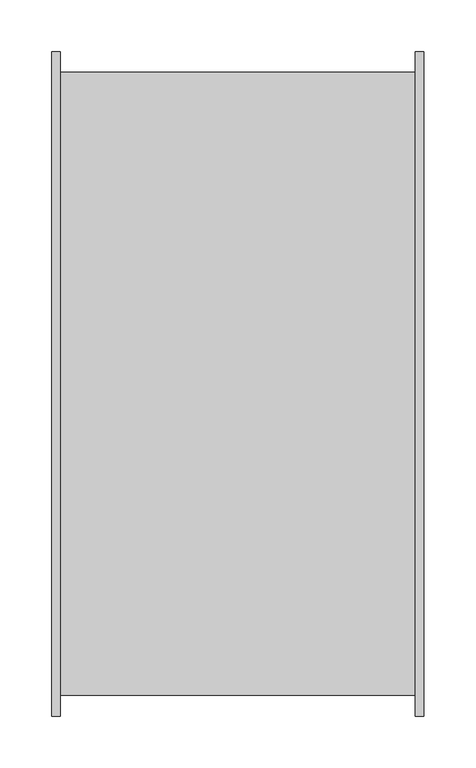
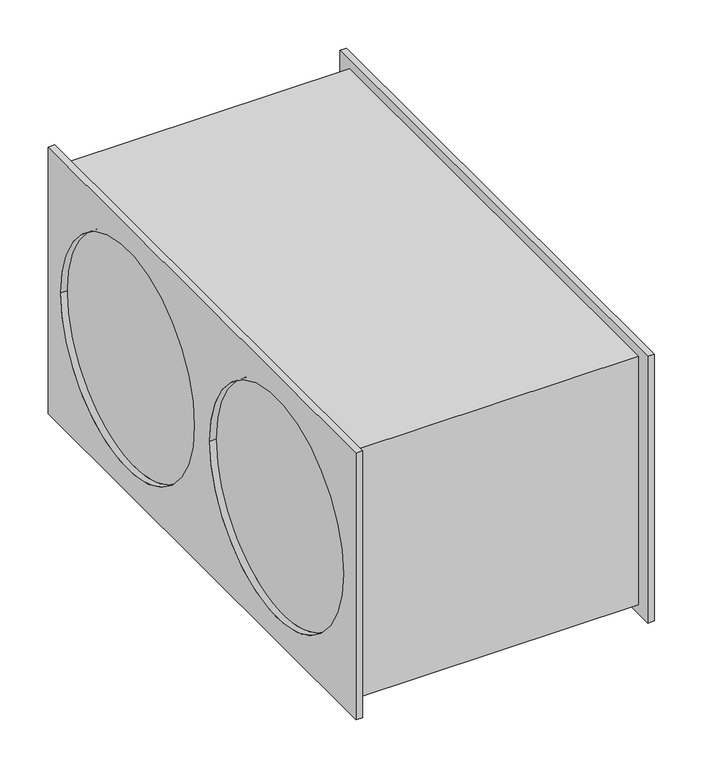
"""IFC4 building model written with IfcOpenShell, lengths in millimetres: unitary equipment geometry, VE-Wentylator-ParaForma-Harmann-JETTEC_REC-Nawiewny : 060/30/4900S."""

from ifc_helpers import new_model, si_unit, frame, origin, place, context, project, spatial, polyline, circle_curve, source, transform, mapped, element, save
from ifc_brep_helpers import plane_surface, revolved_surface, advanced_brep


def unitary_equipment_3133675a(model_context):
    return source(origin(), model_context, "Body", "AdvancedBrep", [
        advanced_brep(
        [(171.0, -319.8, -169.0), (171.0, -319.8, 169.0), (171.0, 319.8, 169.0), (171.0, 319.8, -169.0), (171.0, -300.0, 157.5), (171.0, -300.0, -157.5), (171.0, 300.0, -157.5), (171.0, 300.0, 157.5), (179.0, -319.8, -169.0), (179.0, 319.8, -169.0), (179.0, 319.8, 169.0), (179.0, -319.8, 169.0), (179.0, -293.55, 0.0), (179.0, -16.05, 0.0), (179.0, 16.05, 0.0), (179.0, 293.55, 0.0), (171.0, -16.05, 0.0), (171.0, -293.55, 0.0), (171.0, 293.55, 0.0), (171.0, 16.05, 0.0), (-171.0, -293.55, 0.0), (-171.0, -16.05, 0.0), (-171.0, 16.05, 0.0), (-171.0, 293.55, 0.0), (-171.0, -300.0, -157.5), (-171.0, -300.0, 157.5), (-171.0, 300.0, 157.5), (-171.0, 300.0, -157.5), (-179.0, -319.8, -169.0), (-179.0, -319.8, 169.0), (-179.0, 319.8, 169.0), (-179.0, 319.8, -169.0), (-179.0, -16.05, 0.0), (-179.0, -293.55, 0.0), (-179.0, 293.55, 0.0), (-179.0, 16.05, 0.0), (-171.0, -319.8, -169.0), (-171.0, 319.8, -169.0), (-171.0, 319.8, 169.0), (-171.0, -319.8, 169.0)],
        [
            (0, 1),
            (1, 2),
            (2, 3),
            (3, 0),
            (4, 5),
            (5, 6),
            (6, 7),
            (7, 4),
            (8, 9),
            (9, 10),
            (10, 11),
            (11, 8),
            (12, 13, circle_curve(frame((179.0, -154.8, 0.0), z_axis=(-1.0, 0.0, 0.0), x_axis=(0.0, 1.0, 0.0)), 138.75)),
            (13, 12, circle_curve(frame((179.0, -154.8, 0.0), z_axis=(-1.0, 0.0, 0.0), x_axis=(0.0, 1.0, 0.0)), 138.75)),
            (14, 15, circle_curve(frame((179.0, 154.8, 0.0), z_axis=(-1.0, 0.0, 0.0), x_axis=(0.0, 1.0, 0.0)), 138.75)),
            (15, 14, circle_curve(frame((179.0, 154.8, 0.0), z_axis=(-1.0, 0.0, 0.0), x_axis=(0.0, 1.0, 0.0)), 138.75)),
            (0, 8),
            (11, 1),
            (10, 2),
            (9, 3),
            (16, 13),
            (12, 17),
            (17, 16, circle_curve(frame((171.0, -154.8, 0.0), z_axis=(-1.0, 0.0, 0.0), x_axis=(0.0, 1.0, 0.0)), 138.75)),
            (16, 17, circle_curve(frame((171.0, -154.8, 0.0), z_axis=(-1.0, 0.0, 0.0), x_axis=(0.0, 1.0, 0.0)), 138.75)),
            (18, 15),
            (14, 19),
            (19, 18, circle_curve(frame((171.0, 154.8, 0.0), z_axis=(-1.0, 0.0, 0.0), x_axis=(0.0, 1.0, 0.0)), 138.75)),
            (18, 19, circle_curve(frame((171.0, 154.8, 0.0), z_axis=(-1.0, 0.0, 0.0), x_axis=(0.0, 1.0, 0.0)), 138.75)),
            (20, 21, circle_curve(frame((-171.0, -154.8, 0.0), z_axis=(-1.0, 0.0, 0.0), x_axis=(0.0, 1.0, 0.0)), 138.75)),
            (21, 20, circle_curve(frame((-171.0, -154.8, 0.0), z_axis=(-1.0, 0.0, 0.0), x_axis=(0.0, 1.0, 0.0)), 138.75)),
            (22, 23, circle_curve(frame((-171.0, 154.8, 0.0), z_axis=(-1.0, 0.0, 0.0), x_axis=(0.0, 1.0, 0.0)), 138.75)),
            (23, 22, circle_curve(frame((-171.0, 154.8, 0.0), z_axis=(-1.0, 0.0, 0.0), x_axis=(0.0, 1.0, 0.0)), 138.75)),
            (24, 5),
            (4, 25),
            (25, 24),
            (7, 26),
            (26, 25),
            (6, 27),
            (27, 26),
            (24, 27),
            (28, 29),
            (29, 30),
            (30, 31),
            (31, 28),
            (32, 33, circle_curve(frame((-179.0, -154.8, 0.0), z_axis=(1.0, 0.0, 0.0), x_axis=(0.0, 1.0, 0.0)), 138.75)),
            (33, 32, circle_curve(frame((-179.0, -154.8, 0.0), z_axis=(1.0, 0.0, 0.0), x_axis=(0.0, 1.0, 0.0)), 138.75)),
            (34, 35, circle_curve(frame((-179.0, 154.8, 0.0), z_axis=(1.0, 0.0, 0.0), x_axis=(0.0, 1.0, 0.0)), 138.75)),
            (35, 34, circle_curve(frame((-179.0, 154.8, 0.0), z_axis=(1.0, 0.0, 0.0), x_axis=(0.0, 1.0, 0.0)), 138.75)),
            (36, 37),
            (37, 38),
            (38, 39),
            (39, 36),
            (28, 36),
            (39, 29),
            (38, 30),
            (37, 31),
            (32, 21),
            (20, 33),
            (34, 23),
            (22, 35),
        ],
        [
            plane_surface(frame((171.0, 0.0, 0.0), z_axis=(-1.0, 0.0, 0.0), x_axis=(0.0, 0.0, 1.0))),
            plane_surface(frame((179.0, 0.0, 0.0), z_axis=(1.0, 0.0, 0.0), x_axis=(0.0, 0.0, 1.0))),
            plane_surface(frame((171.0, -319.8, -169.0), z_axis=(0.0, -1.0, 0.0), x_axis=(1.0, 0.0, 0.0))),
            plane_surface(frame((171.0, -319.8, 169.0), z_axis=(0.0, 0.0, 1.0), x_axis=(1.0, 0.0, 0.0))),
            plane_surface(frame((171.0, 319.8, 169.0), z_axis=(0.0, 1.0, 0.0), x_axis=(1.0, 0.0, 0.0))),
            plane_surface(frame((171.0, 319.8, -169.0), z_axis=(0.0, 0.0, -1.0), x_axis=(1.0, 0.0, 0.0))),
            revolved_surface(polyline([(171.0, -16.05000000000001, 0.0), (179.0, -16.05000000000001, 0.0)]), (171.0, -154.8, 0.0), (-1.0, 0.0, 0.0)),
            revolved_surface(polyline([(171.0, 293.55, 0.0), (179.0, 293.55, 0.0)]), (171.0, 154.8, 0.0), (-1.0, 0.0, 0.0)),
            plane_surface(frame((-171.0, 0.0, 0.0), z_axis=(-1.0, 0.0, 0.0), x_axis=(0.0, 0.0, 1.0))),
            plane_surface(frame((171.0, 0.0, 0.0), z_axis=(1.0, 0.0, 0.0), x_axis=(0.0, 0.0, 1.0))),
            plane_surface(frame((-171.0, -300.0, -157.5), z_axis=(0.0, -1.0, 0.0), x_axis=(1.0, 0.0, 0.0))),
            plane_surface(frame((-171.0, -300.0, 157.5), z_axis=(0.0, 0.0, 1.0), x_axis=(1.0, 0.0, 0.0))),
            plane_surface(frame((-171.0, 300.0, 157.5), z_axis=(0.0, 1.0, 0.0), x_axis=(1.0, 0.0, 0.0))),
            plane_surface(frame((-171.0, 300.0, -157.5), z_axis=(0.0, 0.0, -1.0), x_axis=(1.0, 0.0, 0.0))),
            plane_surface(frame((-179.0, 0.0, 0.0), z_axis=(-1.0, 0.0, 0.0), x_axis=(0.0, 0.0, 1.0))),
            plane_surface(frame((-171.0, 0.0, 0.0), z_axis=(1.0, 0.0, 0.0), x_axis=(0.0, 0.0, 1.0))),
            plane_surface(frame((-179.0, -319.8, -169.0), z_axis=(0.0, -1.0, 0.0), x_axis=(1.0, 0.0, 0.0))),
            plane_surface(frame((-179.0, -319.8, 169.0), z_axis=(0.0, 0.0, 1.0), x_axis=(1.0, 0.0, 0.0))),
            plane_surface(frame((-179.0, 319.8, 169.0), z_axis=(0.0, 1.0, 0.0), x_axis=(1.0, 0.0, 0.0))),
            plane_surface(frame((-179.0, 319.8, -169.0), z_axis=(0.0, 0.0, -1.0), x_axis=(1.0, 0.0, 0.0))),
            revolved_surface(polyline([(-179.0, -16.05000000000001, 0.0), (-171.0, -16.05000000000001, 0.0)]), (-179.0, -154.8, 0.0), (-1.0, 0.0, 0.0)),
            revolved_surface(polyline([(-179.0, 293.55, 0.0), (-171.0, 293.55, 0.0)]), (-179.0, 154.8, 0.0), (-1.0, 0.0, 0.0)),
        ],
        [
            (0, [[1, 2, 3, 4], [5, 6, 7, 8]]),
            (1, [[9, 10, 11, 12], [13, 14], [15, 16]]),
            (2, [[-1, 17, -12, 18]]),
            (3, [[-2, -18, -11, 19]]),
            (4, [[-3, -19, -10, 20]]),
            (5, [[-4, -20, -9, -17]]),
            (6, [[21, -13, 22, 23]]),
            (6, [[-21, 24, -22, -14]]),
            (7, [[25, -15, 26, 27]]),
            (7, [[-25, 28, -26, -16]]),
            (8, [[29, 30]]),
            (8, [[31, 32]]),
            (9, [[-23, -24]]),
            (9, [[-27, -28]]),
            (10, [[33, -5, 34, 35]]),
            (11, [[-34, -8, 36, 37]]),
            (12, [[-36, -7, 38, 39]]),
            (13, [[-33, 40, -38, -6]]),
            (14, [[41, 42, 43, 44], [45, 46], [47, 48]]),
            (15, [[49, 50, 51, 52], [-35, -37, -39, -40]]),
            (16, [[-41, 53, -52, 54]]),
            (17, [[-42, -54, -51, 55]]),
            (18, [[-43, -55, -50, 56]]),
            (19, [[-44, -56, -49, -53]]),
            (20, [[57, -29, 58, -45]]),
            (20, [[-57, -46, -58, -30]]),
            (21, [[59, -31, 60, -47]]),
            (21, [[-59, -48, -60, -32]]),
        ],
    ),
    ])


if __name__ == "__main__":
    model = new_model("IFC4")
    model_context = context("Model", 3, world=origin())
    ifc_project = project(units=[si_unit("LENGTHUNIT", "METRE", prefix="MILLI")], contexts=[model_context])
    site = spatial("IfcSite", under=ifc_project)
    building = spatial("IfcBuilding", under=site)
    placement = place(None, origin())
    unitary_equipment_shape = unitary_equipment_3133675a(model_context)
    element("IfcUnitaryEquipment", 1, ObjectType="VE-Wentylator-ParaForma-Harmann-JETTEC_REC-Nawiewny : 060/30/4900S", at=placement, inside=building, context=model_context, shape_type="MappedRepresentation", body=[
        mapped(unitary_equipment_shape, transform((0.0, 0.0, 0.0), x_axis=(1.0, 0.0, 0.0), y_axis=(0.0, 1.0, 0.0), z_axis=(0.0, 0.0, 1.0))),
    ])
    save(model, "model.ifc")
